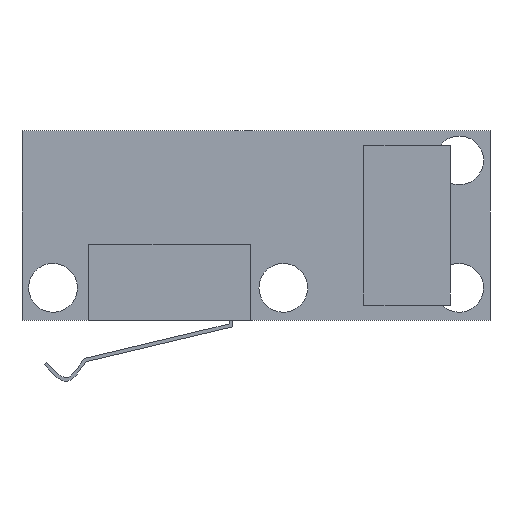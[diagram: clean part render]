
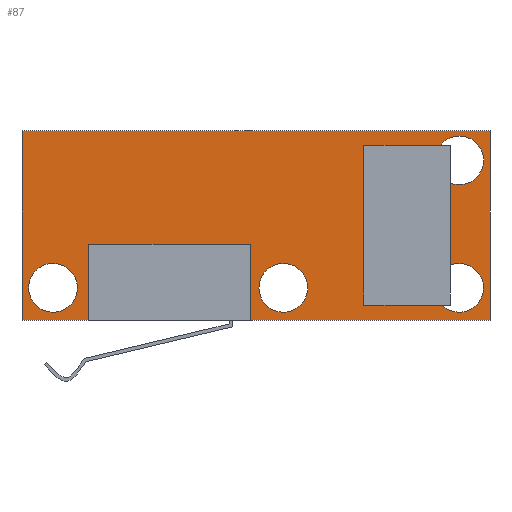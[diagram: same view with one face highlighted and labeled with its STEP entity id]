
A CAD part, front view. The second image highlights one B-rep face of the part: STEP entity #87.
In plain terms, the highlighted planar face has unit normal (0, -1, 0).
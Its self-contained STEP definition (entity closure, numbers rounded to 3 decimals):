
#20=FACE_BOUND('',#162,.T.);
#21=FACE_BOUND('',#163,.T.);
#22=FACE_BOUND('',#164,.T.);
#23=FACE_BOUND('',#165,.T.);
#28=(
BOUNDED_CURVE()
B_SPLINE_CURVE(2,(#832,#833,#834,#835,#836),.UNSPECIFIED.,.F.,.F.)
B_SPLINE_CURVE_WITH_KNOTS((3,2,3),(0.,3.199,6.398),
 .UNSPECIFIED.)
CURVE()
GEOMETRIC_REPRESENTATION_ITEM()
RATIONAL_B_SPLINE_CURVE((1.,0.707,1.,0.707,1.))
REPRESENTATION_ITEM('')
);
#31=(
BOUNDED_CURVE()
B_SPLINE_CURVE(2,(#844,#845,#846,#847,#848),.UNSPECIFIED.,.F.,.F.)
B_SPLINE_CURVE_WITH_KNOTS((3,2,3),(12.797,15.996,19.195),
 .UNSPECIFIED.)
CURVE()
GEOMETRIC_REPRESENTATION_ITEM()
RATIONAL_B_SPLINE_CURVE((1.,0.707,1.,0.707,1.))
REPRESENTATION_ITEM('')
);
#34=(
BOUNDED_CURVE()
B_SPLINE_CURVE(2,(#856,#857,#858,#859,#860),.UNSPECIFIED.,.F.,.F.)
B_SPLINE_CURVE_WITH_KNOTS((3,2,3),(25.594,28.793,31.992),
 .UNSPECIFIED.)
CURVE()
GEOMETRIC_REPRESENTATION_ITEM()
RATIONAL_B_SPLINE_CURVE((1.,0.707,1.,0.707,1.))
REPRESENTATION_ITEM('')
);
#37=(
BOUNDED_CURVE()
B_SPLINE_CURVE(2,(#868,#869,#870,#871,#872),.UNSPECIFIED.,.F.,.F.)
B_SPLINE_CURVE_WITH_KNOTS((3,2,3),(38.39,41.59,44.789),
 .UNSPECIFIED.)
CURVE()
GEOMETRIC_REPRESENTATION_ITEM()
RATIONAL_B_SPLINE_CURVE((1.,0.707,1.,0.707,1.))
REPRESENTATION_ITEM('')
);
#41=(
BOUNDED_CURVE()
B_SPLINE_CURVE(2,(#882,#883,#884,#885,#886),.UNSPECIFIED.,.F.,.F.)
B_SPLINE_CURVE_WITH_KNOTS((3,2,3),(6.398,9.598,12.797),
 .UNSPECIFIED.)
CURVE()
GEOMETRIC_REPRESENTATION_ITEM()
RATIONAL_B_SPLINE_CURVE((1.,0.707,1.,0.707,1.))
REPRESENTATION_ITEM('')
);
#44=(
BOUNDED_CURVE()
B_SPLINE_CURVE(2,(#894,#895,#896,#897,#898),.UNSPECIFIED.,.F.,.F.)
B_SPLINE_CURVE_WITH_KNOTS((3,2,3),(19.195,22.394,25.594),
 .UNSPECIFIED.)
CURVE()
GEOMETRIC_REPRESENTATION_ITEM()
RATIONAL_B_SPLINE_CURVE((1.,0.707,1.,0.707,1.))
REPRESENTATION_ITEM('')
);
#47=(
BOUNDED_CURVE()
B_SPLINE_CURVE(2,(#906,#907,#908,#909,#910),.UNSPECIFIED.,.F.,.F.)
B_SPLINE_CURVE_WITH_KNOTS((3,2,3),(31.992,35.191,38.39),
 .UNSPECIFIED.)
CURVE()
GEOMETRIC_REPRESENTATION_ITEM()
RATIONAL_B_SPLINE_CURVE((1.,0.707,1.,0.707,1.))
REPRESENTATION_ITEM('')
);
#50=(
BOUNDED_CURVE()
B_SPLINE_CURVE(2,(#918,#919,#920,#921,#922),.UNSPECIFIED.,.F.,.F.)
B_SPLINE_CURVE_WITH_KNOTS((3,2,3),(44.789,47.988,51.187),
 .UNSPECIFIED.)
CURVE()
GEOMETRIC_REPRESENTATION_ITEM()
RATIONAL_B_SPLINE_CURVE((1.,0.707,1.,0.707,1.))
REPRESENTATION_ITEM('')
);
#87=ADVANCED_FACE('',(#124,#20,#21,#22,#23),#584,.T.);
#124=FACE_OUTER_BOUND('',#161,.T.);
#161=EDGE_LOOP('',(#248,#249,#250,#251));
#162=EDGE_LOOP('',(#252,#253));
#163=EDGE_LOOP('',(#254,#255));
#164=EDGE_LOOP('',(#256,#257));
#165=EDGE_LOOP('',(#258,#259));
#248=ORIENTED_EDGE('',*,*,#388,.F.);
#249=ORIENTED_EDGE('',*,*,#385,.F.);
#250=ORIENTED_EDGE('',*,*,#382,.F.);
#251=ORIENTED_EDGE('',*,*,#378,.F.);
#252=ORIENTED_EDGE('',*,*,#403,.F.);
#253=ORIENTED_EDGE('',*,*,#390,.F.);
#254=ORIENTED_EDGE('',*,*,#406,.F.);
#255=ORIENTED_EDGE('',*,*,#393,.F.);
#256=ORIENTED_EDGE('',*,*,#409,.F.);
#257=ORIENTED_EDGE('',*,*,#396,.F.);
#258=ORIENTED_EDGE('',*,*,#412,.F.);
#259=ORIENTED_EDGE('',*,*,#399,.F.);
#378=EDGE_CURVE('',#524,#525,#465,.T.);
#382=EDGE_CURVE('',#525,#528,#469,.T.);
#385=EDGE_CURVE('',#528,#530,#472,.T.);
#388=EDGE_CURVE('',#530,#524,#475,.T.);
#390=EDGE_CURVE('',#532,#540,#28,.T.);
#393=EDGE_CURVE('',#534,#542,#31,.T.);
#396=EDGE_CURVE('',#536,#544,#34,.T.);
#399=EDGE_CURVE('',#538,#546,#37,.T.);
#403=EDGE_CURVE('',#540,#532,#41,.T.);
#406=EDGE_CURVE('',#542,#534,#44,.T.);
#409=EDGE_CURVE('',#544,#536,#47,.T.);
#412=EDGE_CURVE('',#546,#538,#50,.T.);
#465=B_SPLINE_CURVE_WITH_KNOTS('',1,(#808,#809),.UNSPECIFIED.,.F.,.F.,(2,
2),(-109.894,-94.05),.UNSPECIFIED.);
#469=B_SPLINE_CURVE_WITH_KNOTS('',1,(#816,#817),.UNSPECIFIED.,.F.,.F.,(2,
2),(-94.05,-54.947),.UNSPECIFIED.);
#472=B_SPLINE_CURVE_WITH_KNOTS('',1,(#822,#823),.UNSPECIFIED.,.F.,.F.,(2,
2),(-54.947,-39.103),.UNSPECIFIED.);
#475=B_SPLINE_CURVE_WITH_KNOTS('',1,(#828,#829),.UNSPECIFIED.,.F.,.F.,(2,
2),(-39.103,0.),.UNSPECIFIED.);
#524=VERTEX_POINT('',#784);
#525=VERTEX_POINT('',#785);
#528=VERTEX_POINT('',#788);
#530=VERTEX_POINT('',#790);
#532=VERTEX_POINT('',#792);
#534=VERTEX_POINT('',#794);
#536=VERTEX_POINT('',#796);
#538=VERTEX_POINT('',#798);
#540=VERTEX_POINT('',#800);
#542=VERTEX_POINT('',#802);
#544=VERTEX_POINT('',#804);
#546=VERTEX_POINT('',#806);
#584=PLANE('',#624);
#624=AXIS2_PLACEMENT_3D('',#742,#647,$);
#647=DIRECTION('',(0.,-1.,0.));
#742=CARTESIAN_POINT('',(-66.399,208.038,465.449));
#784=CARTESIAN_POINT('',(-27.295,208.038,465.449));
#785=CARTESIAN_POINT('',(-27.295,208.038,449.605));
#788=CARTESIAN_POINT('',(-66.399,208.038,449.605));
#790=CARTESIAN_POINT('',(-66.399,208.038,465.449));
#792=CARTESIAN_POINT('',(-31.281,208.038,464.441));
#794=CARTESIAN_POINT('',(-31.281,208.038,453.792));
#796=CARTESIAN_POINT('',(-65.22,208.038,453.792));
#798=CARTESIAN_POINT('',(-45.971,208.038,453.792));
#800=CARTESIAN_POINT('',(-28.46,208.038,461.502));
#802=CARTESIAN_POINT('',(-28.46,208.038,450.853));
#804=CARTESIAN_POINT('',(-62.399,208.038,450.853));
#806=CARTESIAN_POINT('',(-43.15,208.038,450.853));
#808=CARTESIAN_POINT('',(-27.295,208.038,465.449));
#809=CARTESIAN_POINT('',(-27.295,208.038,449.605));
#816=CARTESIAN_POINT('',(-27.295,208.038,449.605));
#817=CARTESIAN_POINT('',(-66.399,208.038,449.605));
#822=CARTESIAN_POINT('',(-66.399,208.038,449.605));
#823=CARTESIAN_POINT('',(-66.399,208.038,465.449));
#828=CARTESIAN_POINT('',(-66.399,208.038,465.449));
#829=CARTESIAN_POINT('',(-27.295,208.038,465.449));
#832=CARTESIAN_POINT('',(-31.281,208.038,464.441));
#833=CARTESIAN_POINT('',(-32.75,208.038,463.03));
#834=CARTESIAN_POINT('',(-31.339,208.038,461.561));
#835=CARTESIAN_POINT('',(-29.929,208.038,460.092));
#836=CARTESIAN_POINT('',(-28.46,208.038,461.502));
#844=CARTESIAN_POINT('',(-31.281,208.038,453.792));
#845=CARTESIAN_POINT('',(-32.75,208.038,452.381));
#846=CARTESIAN_POINT('',(-31.339,208.038,450.912));
#847=CARTESIAN_POINT('',(-29.929,208.038,449.443));
#848=CARTESIAN_POINT('',(-28.46,208.038,450.853));
#856=CARTESIAN_POINT('',(-65.22,208.038,453.792));
#857=CARTESIAN_POINT('',(-66.689,208.038,452.381));
#858=CARTESIAN_POINT('',(-65.279,208.038,450.912));
#859=CARTESIAN_POINT('',(-63.868,208.038,449.443));
#860=CARTESIAN_POINT('',(-62.399,208.038,450.853));
#868=CARTESIAN_POINT('',(-45.971,208.038,453.792));
#869=CARTESIAN_POINT('',(-47.44,208.038,452.381));
#870=CARTESIAN_POINT('',(-46.03,208.038,450.912));
#871=CARTESIAN_POINT('',(-44.619,208.038,449.443));
#872=CARTESIAN_POINT('',(-43.15,208.038,450.853));
#882=CARTESIAN_POINT('',(-28.46,208.038,461.502));
#883=CARTESIAN_POINT('',(-26.991,208.038,462.913));
#884=CARTESIAN_POINT('',(-28.401,208.038,464.382));
#885=CARTESIAN_POINT('',(-29.811,208.038,465.851));
#886=CARTESIAN_POINT('',(-31.281,208.038,464.441));
#894=CARTESIAN_POINT('',(-28.46,208.038,450.853));
#895=CARTESIAN_POINT('',(-26.991,208.038,452.264));
#896=CARTESIAN_POINT('',(-28.401,208.038,453.733));
#897=CARTESIAN_POINT('',(-29.811,208.038,455.202));
#898=CARTESIAN_POINT('',(-31.281,208.038,453.792));
#906=CARTESIAN_POINT('',(-62.399,208.038,450.853));
#907=CARTESIAN_POINT('',(-60.93,208.038,452.264));
#908=CARTESIAN_POINT('',(-62.34,208.038,453.733));
#909=CARTESIAN_POINT('',(-63.751,208.038,455.202));
#910=CARTESIAN_POINT('',(-65.22,208.038,453.792));
#918=CARTESIAN_POINT('',(-43.15,208.038,450.853));
#919=CARTESIAN_POINT('',(-41.681,208.038,452.264));
#920=CARTESIAN_POINT('',(-43.091,208.038,453.733));
#921=CARTESIAN_POINT('',(-44.502,208.038,455.202));
#922=CARTESIAN_POINT('',(-45.971,208.038,453.792));
